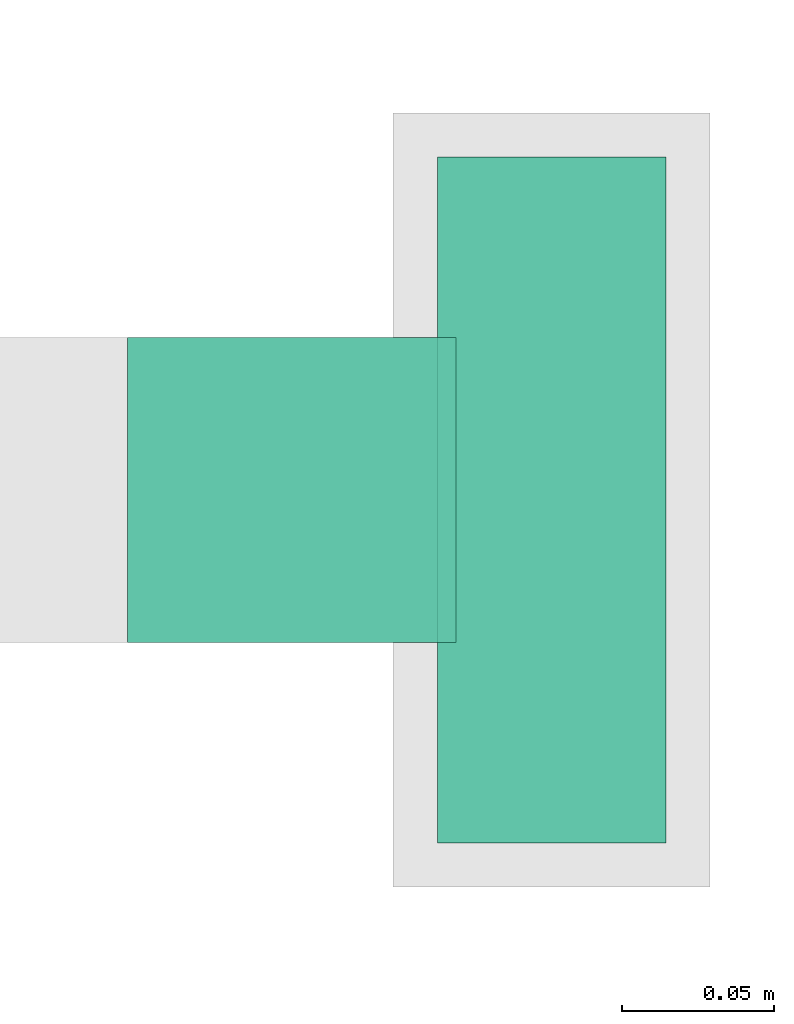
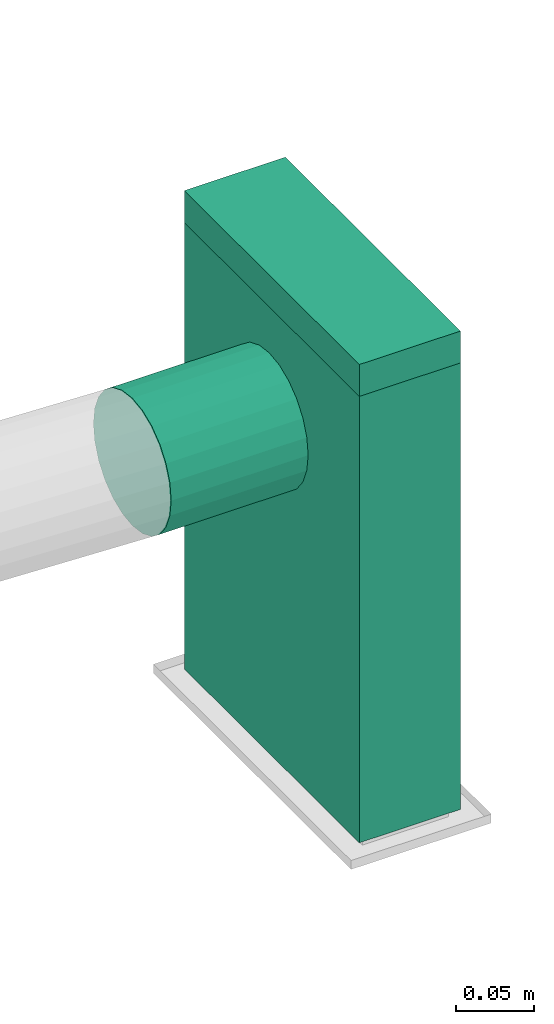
# One storey, part 22 of 60: 2 flow fittings, 1 flow segment.
"""IFC2X3 building model written with IfcOpenShell, lengths in millimetres."""

import ifcopenshell
import ifcopenshell.guid

model = None  # the IFC model being written
_history = None  # IfcOwnerHistory: only IFC2X3 demands one
_inside = {}  # id of a spatial element -> (the spatial element, [elements in it])
_under = {}  # id of a project, library or spatial element -> (it, [spatial elements below it])
_declared = {}  # id of a project -> (the project, [libraries it declares])
_typed = {}  # id of a type object -> (the type object, [elements of that type])
_made_of = {}  # id of a material, layer set ... -> (it, [elements and type objects made of it])


def new_model(schema):
    """Start an empty IFC model of exactly this schema.

    Asked for "IFC4X3", IfcOpenShell would pick the latest addendum, in which some entities
    have other attributes; the version numbers below select the first issue.
    IFC2X3 requires an IfcOwnerHistory on every rooted entity: one is made here for all.
    """
    global model, _history
    if schema == "IFC4X3":
        model = ifcopenshell.file(schema_version=(4, 3, 0, 0))
    else:
        model = ifcopenshell.file(schema=schema)
    _inside.clear()
    _under.clear()
    _declared.clear()
    _typed.clear()
    _made_of.clear()
    _history = None
    if model.schema == "IFC2X3":
        org = make("IfcOrganization", Name="unknown")
        user = make(
            "IfcPersonAndOrganization",
            ThePerson=make("IfcPerson", FamilyName="unknown"),
            TheOrganization=org,
        )
        app = make(
            "IfcApplication",
            ApplicationDeveloper=org,
            Version="unknown",
            ApplicationFullName="unknown",
            ApplicationIdentifier="unknown",
        )
        _history = make(
            "IfcOwnerHistory",
            OwningUser=user,
            OwningApplication=app,
            ChangeAction="ADDED",
            CreationDate=0,
        )
    return model


def make(cls, **values):
    """One entity of the class cls with the attributes given. An attribute that is None is left unset."""
    return model.create_entity(
        cls, **{name: value for name, value in values.items() if value is not None}
    )


def entity(cls, *values):
    """Any entity or typed value of the class cls, its attributes in the order of the schema. None: left unset."""
    e = model.create_entity(cls)
    for i, value in enumerate(values):
        if value is not None:
            e[i] = value
    return e


def rooted(cls, **values):
    """An entity with a GlobalId (a new one), such as an element, a storey or a relation."""
    return make(cls, GlobalId=ifcopenshell.guid.new(), OwnerHistory=_history, **values)


def si_unit(unit_type, name, prefix=None):
    """IfcSIUnit, for example si_unit("LENGTHUNIT", "METRE", prefix="MILLI")."""
    return make("IfcSIUnit", UnitType=unit_type, Prefix=prefix, Name=name)


def converted_unit(unit_type, name, factor, base, dimensions=None, offset=None):
    """IfcConversionBasedUnit, such as the inch: factor (a typed value) times the base unit."""
    return make(
        "IfcConversionBasedUnit"
        if offset is None
        else "IfcConversionBasedUnitWithOffset",
        ConversionOffset=offset,
        Dimensions=None
        if dimensions is None
        else entity("IfcDimensionalExponents", *dimensions),
        UnitType=unit_type,
        Name=name,
        ConversionFactor=make(
            "IfcMeasureWithUnit", ValueComponent=factor, UnitComponent=base
        ),
    )


def derived_unit(unit_type, elements):
    """IfcDerivedUnit: a product of units, each with its exponent."""
    return make(
        "IfcDerivedUnit",
        Elements=[
            make("IfcDerivedUnitElement", Unit=unit, Exponent=power)
            for unit, power in elements
        ],
        UnitType=unit_type,
    )


def assignment(units):
    """IfcUnitAssignment: the units of a project."""
    return None if units is None else make("IfcUnitAssignment", Units=units)


def point(xyz):
    """IfcCartesianPoint."""
    return None if xyz is None else make("IfcCartesianPoint", Coordinates=xyz)


def direction(xyz):
    """IfcDirection."""
    return None if xyz is None else make("IfcDirection", DirectionRatios=xyz)


def frame(location, z_axis=None, x_axis=None):
    """IfcAxis2Placement3D, a coordinate frame: its origin and axes. An axis left out is left unset."""
    return make(
        "IfcAxis2Placement3D",
        Location=point(location),
        Axis=direction(z_axis),
        RefDirection=direction(x_axis),
    )


def frame_2d(location, x_axis=None):
    """IfcAxis2Placement2D, a coordinate frame in the plane: its origin and x axis."""
    return make(
        "IfcAxis2Placement2D", Location=point(location), RefDirection=direction(x_axis)
    )


def origin():
    """The frame at (0, 0, 0) with its axes left unset."""
    return frame((0.0, 0.0, 0.0))


def origin_2d_with_axis():
    """The frame at (0, 0) in the plane with the x axis (1, 0) written out."""
    return frame_2d((0.0, 0.0), x_axis=(1.0, 0.0))


def place(relative_to, where):
    """IfcLocalPlacement: puts the frame where relative to a parent placement (None: the world)."""
    return make(
        "IfcLocalPlacement", PlacementRelTo=relative_to, RelativePlacement=where
    )


def context(
    kind, dimensions, precision=None, world=None, true_north=None, identifier=None
):
    """IfcGeometricRepresentationContext, for example the 3D "Model" context."""
    return make(
        "IfcGeometricRepresentationContext",
        ContextIdentifier=identifier,
        ContextType=kind,
        CoordinateSpaceDimension=dimensions,
        Precision=precision,
        WorldCoordinateSystem=world,
        TrueNorth=true_north,
    )


def subcontext(parent, identifier, kind, view, scale=None):
    """IfcGeometricRepresentationSubContext, for example "Body" below "Model"."""
    return make(
        "IfcGeometricRepresentationSubContext",
        ContextIdentifier=identifier,
        ContextType=kind,
        ParentContext=parent,
        TargetScale=scale,
        TargetView=view,
    )


def project(units=None, contexts=None):
    """IfcProject with its units and contexts."""
    return rooted(
        "IfcProject",
        Name="project",
        RepresentationContexts=contexts,
        UnitsInContext=assignment(units),
    )


def spatial(cls, under=None, at=None, **own):
    """A site, building, storey or space (cls), placed at a placement, below another one or the project."""
    s = rooted(cls, ObjectPlacement=at, **own)
    if under is not None:
        _under.setdefault(under.id(), (under, []))[1].append(s)
    return s


def profile(cls, at=None, kind="AREA", **sizes):
    """A parametric profile (cls). Its sizes go by their IFC names, for example OverallWidth=200.0."""
    return make(cls, ProfileType=kind, Position=at, **sizes)


def rectangle(**sizes):
    """IfcRectangleProfileDef."""
    return profile("IfcRectangleProfileDef", **sizes)


def extrude(swept, where, along, depth):
    """IfcExtrudedAreaSolid: the profile swept, set in the frame where, extruded along a direction by depth."""
    return make(
        "IfcExtrudedAreaSolid",
        SweptArea=swept,
        Position=where,
        ExtrudedDirection=direction(along),
        Depth=depth,
    )


def faces_of(points, faces, orient=None, outer=None):
    """IfcFace entities. A face is a list of loops; a loop is a list of indices into points, from 0.

    orient and outer hold one flag for each loop. By default every Orientation is true, the
    first loop of a face is its IfcFaceOuterBound and the others are IfcFaceBound.
    """
    made = []
    for i, loops in enumerate(faces):
        bounds = []
        for j, loop in enumerate(loops):
            is_outer = j == 0 if outer is None else outer[i][j]
            bounds.append(
                make(
                    "IfcFaceOuterBound" if is_outer else "IfcFaceBound",
                    Bound=make("IfcPolyLoop", Polygon=[points[k] for k in loop]),
                    Orientation=True if orient is None else orient[i][j],
                )
            )
        made.append(make("IfcFace", Bounds=bounds))
    return made


def faceted_brep(points, faces, orient=None, outer=None, voids=None):
    """IfcFacetedBrep: a solid bounded by flat faces; with voids (closed shells), ...WithVoids."""
    shared = [point(p) for p in points]
    hull = make("IfcClosedShell", CfsFaces=faces_of(shared, faces, orient, outer))
    if voids is None:
        return make("IfcFacetedBrep", Outer=hull)
    return make(
        "IfcFacetedBrepWithVoids",
        Outer=hull,
        Voids=[
            make(cls, CfsFaces=faces_of(shared, fs, o, b)) for cls, fs, o, b in voids
        ],
    )


def shape(context_of_items, identifier, shape_type, items):
    """IfcShapeRepresentation: the items that make up one representation, for example the "Body"."""
    return make(
        "IfcShapeRepresentation",
        ContextOfItems=context_of_items,
        RepresentationIdentifier=identifier,
        RepresentationType=shape_type,
        Items=items,
    )


def source(mapping_origin, context_of_items, identifier, shape_type, items):
    """IfcRepresentationMap: a shape defined once, which mapped items show again and again."""
    return make(
        "IfcRepresentationMap",
        MappingOrigin=mapping_origin,
        MappedRepresentation=shape(context_of_items, identifier, shape_type, items),
    )


def transform(
    local_origin,
    x_axis=None,
    y_axis=None,
    z_axis=None,
    scale=None,
    scale2=None,
    scale3=None,
    uniform=True,
):
    """IfcCartesianTransformationOperator3D, or its non-uniform kind. x_axis, y_axis, z_axis: its Axis1, 2, 3."""
    if uniform:
        return make(
            "IfcCartesianTransformationOperator3D",
            Axis1=direction(x_axis),
            Axis2=direction(y_axis),
            LocalOrigin=point(local_origin),
            Scale=scale,
            Axis3=direction(z_axis),
        )
    return make(
        "IfcCartesianTransformationOperator3DnonUniform",
        Axis1=direction(x_axis),
        Axis2=direction(y_axis),
        LocalOrigin=point(local_origin),
        Scale=scale,
        Axis3=direction(z_axis),
        Scale2=scale2,
        Scale3=scale3,
    )


def mapped(mapping_source, mapping_target):
    """IfcMappedItem: shows the shape of a source again, moved by a transform."""
    return make(
        "IfcMappedItem", MappingSource=mapping_source, MappingTarget=mapping_target
    )


def material(Name=None, Category=None):
    """IfcMaterial."""
    return make("IfcMaterial", Name=Name, Category=Category)


def made_of(thing, what):
    """Note that an element or type object is made of a material, layer set ...; save() writes the relation."""
    if what is not None:
        _made_of.setdefault(what.id(), (what, []))[1].append(thing)
    return thing


def type_object(cls, material=None, **own):
    """A type object (cls), such as IfcWallType, which elements share."""
    return made_of(rooted(cls, **own), material)


def type_shapes(of_type, sources):
    """Give a type object the sources (RepresentationMaps) that its elements show as mapped items."""
    of_type.RepresentationMaps = sources


def element(
    cls,
    number,
    at=None,
    inside=None,
    cuts=None,
    type_object=None,
    material=None,
    context=None,
    identifier="Body",
    shape_type=None,
    held_by="IfcProductDefinitionShape",
    body=None,
    shapes=None,
    **own,
):
    """One element of the class cls, such as IfcWall. Its Tag is "e" and its number.

    at: its placement. inside: the storey or other place that contains it. cuts: it is an
    opening in that element (IfcRelVoidsElement). A single representation is given by context,
    identifier, shape_type and body (its items); several are given by shapes. held_by: the class
    of the entity that holds the representations. save() writes the other relations.
    """
    e = rooted(cls, Tag="e%d" % number, ObjectPlacement=at, **own)
    if body is not None:
        shapes = [shape(context, identifier, shape_type, body)]
    if shapes is not None:
        e.Representation = make(held_by, Representations=shapes)
    if inside is not None:
        _inside.setdefault(inside.id(), (inside, []))[1].append(e)
    if cuts is not None:
        rooted(
            "IfcRelVoidsElement", RelatingBuildingElement=cuts, RelatedOpeningElement=e
        )
    if type_object is not None:
        _typed.setdefault(type_object.id(), (type_object, []))[1].append(e)
    return made_of(e, material)


def aggregate(whole, parts):
    """IfcRelAggregates: a whole, such as a stair, and the parts it consists of."""
    return rooted("IfcRelAggregates", RelatingObject=whole, RelatedObjects=parts)


def save(model, path):
    """Write the relations noted so far, then the file.

    IfcRelAggregates (storeys below a building ...), IfcRelContainedInSpatialStructure (elements
    in a storey), IfcRelDefinesByType, IfcRelAssociatesMaterial and IfcRelDeclares: one each for
    every whole, place, type object, material and project.
    """
    for whole, parts in _under.values():
        aggregate(whole, parts)
    for where, things in _inside.values():
        rooted(
            "IfcRelContainedInSpatialStructure",
            RelatedElements=things,
            RelatingStructure=where,
        )
    for kind, things in _typed.values():
        rooted("IfcRelDefinesByType", RelatedObjects=things, RelatingType=kind)
    for what, things in _made_of.values():
        rooted("IfcRelAssociatesMaterial", RelatedObjects=things, RelatingMaterial=what)
    for by, libraries in _declared.values():
        rooted("IfcRelDeclares", RelatingContext=by, RelatedDefinitions=libraries)
    model.write(path)


model = new_model("IFC2X3")

# Units and contexts
model_context = context("Model", 3, precision=0.01, world=origin(), true_north=direction((6.123233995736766e-17, 1.0)))
body_context = subcontext(model_context, "Body", "Model", "MODEL_VIEW")
ifc_project = project(units=[si_unit("LENGTHUNIT", "METRE", prefix="MILLI"), converted_unit("PLANEANGLEUNIT", "DEGREE", entity("IfcPlaneAngleMeasure", 0.017453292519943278), si_unit("PLANEANGLEUNIT", "RADIAN"), dimensions=[0, 0, 0, 0, 0, 0, 0]), si_unit("AREAUNIT", "SQUARE_METRE"), derived_unit("THERMALTRANSMITTANCEUNIT", [(si_unit("MASSUNIT", "GRAM", prefix="KILO"), 1), (si_unit("THERMODYNAMICTEMPERATUREUNIT", "KELVIN"), -1), (si_unit("TIMEUNIT", "SECOND"), -3)])], contexts=[model_context])

# Site, building, storey
site_placement = place(None, origin())
site = spatial("IfcSite", under=ifc_project, at=site_placement, Name="Default", CompositionType="ELEMENT")
building_placement = place(site_placement, origin())
building = spatial("IfcBuilding", under=site, at=building_placement, Name="Praça Pedro II, 1301 - Centro (Sul), Teresina - PI, 64001-100", CompositionType="ELEMENT")
storey_placement = place(building_placement, frame((0.0, 0.0, 6040.0)))
storey = spatial("IfcBuildingStorey", under=building, at=storey_placement, Name="2PAV", CompositionType="ELEMENT", Elevation=6040.0)

# Flow segment
duct_segment_type = type_object("IfcDuctSegmentType", Name="Duto retangular:Raios cotovelos / torneiras", PredefinedType="NOTDEFINED")
flow_segment_placement = place(storey_placement, origin())
element("IfcFlowSegment", 1, at=flow_segment_placement, inside=storey, type_object=duct_segment_type, Name="Duto retangular:Raios cotovelos / torneiras", ObjectType="Duto retangular:Raios cotovelos / torneiras", context=body_context, shape_type="SweptSolid", body=[
    extrude(rectangle(XDim=75.00000000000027, YDim=225.00000000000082, at=origin_2d_with_axis()), frame((11728.505428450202, -65766.01096728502, 2325.0), z_axis=(0.0, 0.0, 1.0), x_axis=(-1.0, 0.0, 0.0)), (0.0, 0.0, 1.0), 350.2119780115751),
])

# Flow fittings
ifc_material = material(Name="<Unnamed>")
duct_fitting_type_1 = type_object("IfcDuctFittingType", Name="M_Tampa retangular:Padrão", PredefinedType="NOTDEFINED", material=ifc_material)
shared_shape_1 = source(origin(), body_context, "Body", "SweptSolid", [
    extrude(rectangle(XDim=24.999999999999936, YDim=225.00000000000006, at=origin_2d_with_axis()), frame((12.500000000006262, 0.0, -37.50000000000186)), (0.0, 0.0, 1.0), 75.0),
])
type_shapes(duct_fitting_type_1, [shared_shape_1])
flow_fitting_1_placement = place(storey_placement, frame((11728.505428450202, -65766.01096728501, 2675.211978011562), z_axis=(-1.0, 0.0, 0.0), x_axis=(0.0, 0.0, 1.0)))
element("IfcFlowFitting", 2, at=flow_fitting_1_placement, inside=storey, type_object=duct_fitting_type_1, material=ifc_material, Name="M_Tampa retangular:Padrão", ObjectType="M_Tampa retangular:Padrão", context=body_context, shape_type="MappedRepresentation", body=[
    mapped(shared_shape_1, transform((0.0, 0.0, 0.0), scale=1.0)),
])
duct_fitting_type_2 = type_object("IfcDuctFittingType", Name="M_Encaixe de duto redondo:Padrão", PredefinedType="NOTDEFINED", material=ifc_material)
shared_shape_2 = source(origin(), body_context, "Body", "Brep", [
    faceted_brep([(101.60000000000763, 50.0, 0.0), (101.60000000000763, 48.296291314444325, 12.940952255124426), (101.60000000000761, 43.301270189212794, 25.0), (101.6000000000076, 35.35533905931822, 35.35533905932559), (101.60000000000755, 25.0, 43.30127018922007), (101.60000000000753, 12.94095225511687, 48.29629131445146), (101.6000000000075, 0.0, 50.0), (101.60000000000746, -12.940952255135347, 48.29629131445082), (101.60000000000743, -25.0, 43.30127018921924), (101.6000000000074, -35.35533905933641, 35.355339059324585), (101.60000000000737, -43.301270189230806, 25.0), (101.60000000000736, -48.296291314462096, 12.940952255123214), (101.60000000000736, -50.0, 0.0), (101.60000000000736, -48.29629131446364, -12.94095225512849), (101.60000000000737, -43.301270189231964, -25.0), (101.6000000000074, -35.35533905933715, -35.35533905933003), (101.60000000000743, -25.0, -43.30127018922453), (101.60000000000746, -12.94095225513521, -48.29629131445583), (101.6000000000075, 0.0, -50.0), (101.60000000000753, 12.9409522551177, -48.29629131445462), (101.60000000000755, 25.0, -43.30127018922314), (101.6000000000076, 35.35533905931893, -35.35533905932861), (101.60000000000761, 43.30127018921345, -25.0), (101.60000000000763, 48.2962913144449, -12.940952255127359), (0.0, 12.940952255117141, 48.29629131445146), (-6.0959999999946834, 12.94095225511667, 48.29629131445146), (-6.095999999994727, 0.0, 50.0), (0.0, 0.0, 50.0), (0.0, 25.0, 43.30127018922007), (-6.0959999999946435, 25.0, 43.30127018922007), (0.0, 35.35533905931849, 35.35533905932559), (-6.095999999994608, 35.35533905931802, 35.35533905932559), (0.0, 48.296291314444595, 12.940952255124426), (-6.095999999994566, 48.296291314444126, 12.940952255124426), (-6.095999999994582, 43.3012701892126, 25.0), (0.0, 43.301270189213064, 25.0), (0.0, 50.0, 0.0), (-6.09599999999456, 50.0, 0.0), (0.0, 43.30127018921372, -25.0), (-6.095999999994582, 43.30127018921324, -25.0), (-6.095999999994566, 48.296291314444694, -12.940952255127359), (0.0, 48.29629131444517, -12.940952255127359), (0.0, 35.3553390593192, -35.35533905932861), (-6.095999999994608, 35.35533905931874, -35.35533905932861), (0.0, 12.940952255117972, -48.29629131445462), (-6.0959999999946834, 12.940952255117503, -48.29629131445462), (-6.0959999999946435, 25.0, -43.30127018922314), (0.0, 25.0, -43.30127018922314), (0.0, 0.0, -50.0), (-6.095999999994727, 0.0, -50.0), (0.0, -12.940952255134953, -48.29629131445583), (-6.09599999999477, -12.940952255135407, -48.29629131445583), (0.0, -25.0, -43.30127018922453), (-6.0959999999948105, -25.0, -43.30127018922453), (0.0, -35.35533905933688, -35.35533905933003), (-6.095999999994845, -35.355339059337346, -35.35533905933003), (0.0, -48.29629131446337, -12.94095225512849), (-6.095999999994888, -48.29629131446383, -12.94095225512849), (-6.095999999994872, -43.30127018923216, -25.0), (0.0, -43.301270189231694, -25.0), (0.0, -50.0, 0.0), (-6.095999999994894, -50.0, 0.0), (0.0, -48.296291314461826, 12.940952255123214), (-6.095999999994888, -48.296291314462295, 12.940952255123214), (0.0, -43.30127018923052, 25.0), (-6.095999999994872, -43.301270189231, 25.0), (0.0, -35.35533905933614, 35.355339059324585), (-6.095999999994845, -35.35533905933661, 35.355339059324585), (0.0, -12.940952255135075, 48.29629131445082), (-6.09599999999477, -12.940952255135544, 48.29629131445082), (-6.0959999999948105, -25.0, 43.30127018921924), (0.0, -25.0, 43.30127018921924)], [[[0, 1, 2, 3, 4, 5, 6, 7, 8, 9, 10, 11, 12, 13, 14, 15, 16, 17, 18, 19, 20, 21, 22, 23]], [[24, 25, 26, 27, 6, 5]], [[28, 29, 25, 24, 5, 4]], [[4, 3, 30, 31, 29, 28]], [[32, 33, 34, 35, 2, 1]], [[36, 37, 33, 32, 1, 0]], [[3, 2, 35, 34, 31, 30]], [[23, 22, 38, 39, 40, 41]], [[0, 23, 41, 40, 37, 36]], [[22, 21, 42, 43, 39, 38]], [[44, 45, 46, 47, 20, 19]], [[48, 49, 45, 44, 19, 18]], [[21, 20, 47, 46, 43, 42]], [[50, 51, 49, 48, 18, 17]], [[52, 53, 51, 50, 17, 16]], [[16, 15, 54, 55, 53, 52]], [[56, 57, 58, 59, 14, 13]], [[60, 61, 57, 56, 13, 12]], [[15, 14, 59, 58, 55, 54]], [[62, 63, 61, 60, 12, 11]], [[64, 65, 63, 62, 11, 10]], [[10, 9, 66, 67, 65, 64]], [[68, 69, 70, 71, 8, 7]], [[27, 26, 69, 68, 7, 6]], [[9, 8, 71, 70, 67, 66]], [[49, 51, 53, 55, 58, 57, 61, 63, 65, 67, 70, 69, 26, 25, 29, 31, 34, 33, 37, 40, 39, 43, 46, 45]]]),
])
type_shapes(duct_fitting_type_2, [shared_shape_2])
flow_fitting_2_placement = place(storey_placement, frame((11691.005428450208, -65762.72452643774, 2589.166702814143), z_axis=(0.0, 1.0, 0.0), x_axis=(-1.0, 0.0, 0.0)))
element("IfcFlowFitting", 3, at=flow_fitting_2_placement, inside=storey, type_object=duct_fitting_type_2, material=ifc_material, Name="M_Encaixe de duto redondo:Padrão", ObjectType="M_Encaixe de duto redondo:Padrão", context=body_context, shape_type="MappedRepresentation", body=[
    mapped(shared_shape_2, transform((0.0, 0.0, 0.0), scale=1.0)),
])

save(model, "model.ifc")
